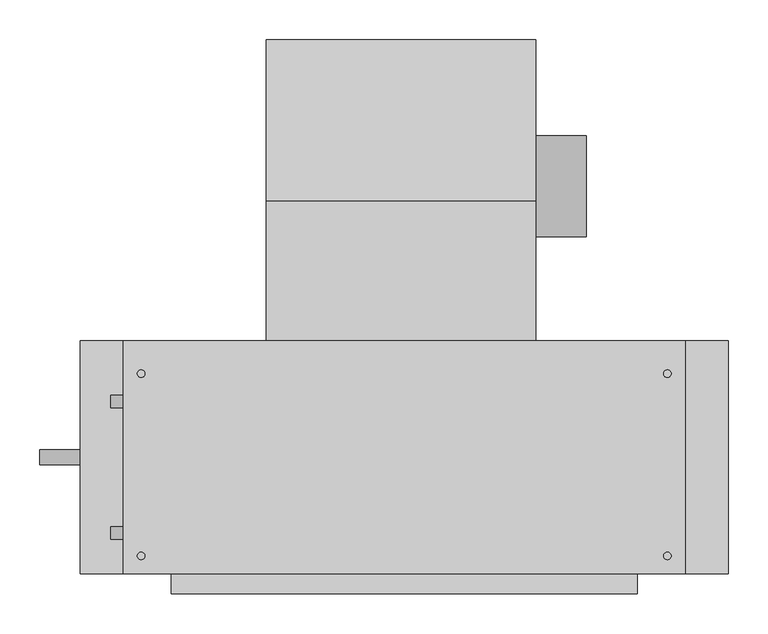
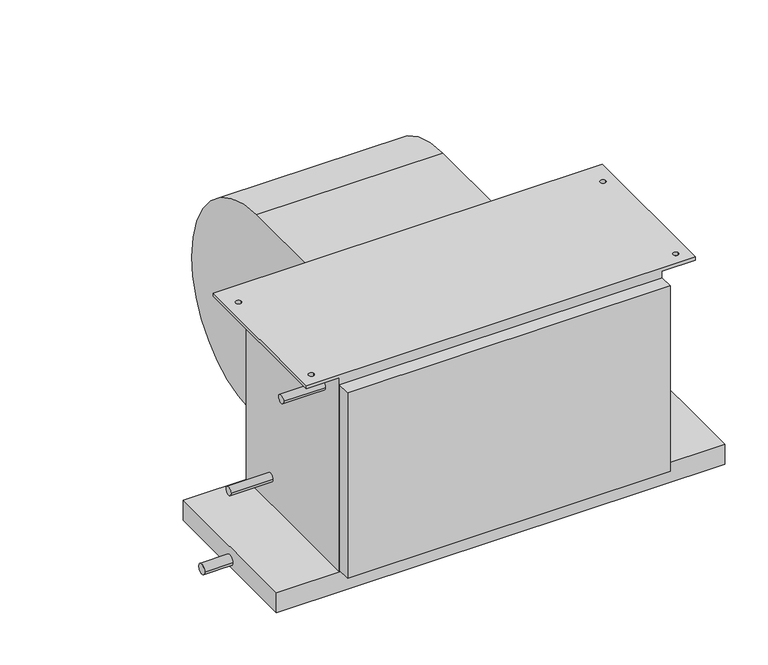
"""IFC4 building model written with IfcOpenShell, lengths in millimetres: proxy geometry, Concealed_High_Capacity_Horizontal_Fan_Coil_Unit_-_42DAA_-_CARRIER_-_2-Pipe_Cool-EHeat_LH_2022 : Size 10 - 277v/60Hz/1Ph - 6 Row 7.0kW."""

from ifc_helpers import new_model, si_unit, point, frame, frame_2d, origin, place, context, project, spatial, polyline, circle_curve, trimmed, segment, composite_curve, outline, extrude, source, transform, mapped, element, save
from ifc_brep_helpers import plane_surface, cylinder_surface, revolved_surface, advanced_brep


def mechanical_equipment_5883dd97(model_context):
    return source(origin(), model_context, "Body", "SolidModel", [
        extrude(outline(composite_curve([segment(trimmed(circle_curve(frame_2d((102.0007598, -206.8897468)), 63.5), [point((165.5007598, -206.8897468))], [point((38.5007598, -206.8897468))], False, "CARTESIAN"), True, "CONTINUOUS"), segment(trimmed(circle_curve(frame_2d((102.0007598, -206.8897468)), 63.5), [point((38.5007598, -206.8897468))], [point((165.5007598, -206.8897468))], False, "CARTESIAN"), True, "CONTINUOUS")], self_intersect=False)), frame((317.5, 0.0, 0.0), z_axis=(1.0, 0.0, 0.0), x_axis=(0.0, 1.0, 0.0)), (0.0, 0.0, 1.0), 63.5),
        advanced_brep(
        [(-20.574, 285.5155957, -222.029602), (-20.574, 104.6226, -403.64664), (-20.574, -50.9016, -277.10638), (-20.574, -92.075, -277.10638), (-20.574, -92.075, -19.05), (-20.574, 83.0080093, -19.05), (317.5, 285.5155957, -222.029602), (317.5, 83.0080093, -19.05), (317.5, -92.075, -19.05), (317.5, -92.075, -277.10638), (317.5, -50.9016, -277.10638), (317.5, 104.622599, -403.6457839)],
        [
            (0, 1, circle_curve(frame((-20.574, 104.44226, -222.57258), z_axis=(-1.0, 0.0, 0.0), x_axis=(0.0, -1.0, 0.0)), 181.0741498)),
            (1, 2, circle_curve(frame((-20.574, 104.44226, -245.02364), z_axis=(-1.0, 0.0, 0.0), x_axis=(0.0, -1.0, 0.0)), 158.6222464)),
            (2, 3),
            (3, 4),
            (4, 5),
            (5, 0, circle_curve(frame((-20.574, 81.9912, -222.57258), z_axis=(-1.0, 0.0, 0.0), x_axis=(0.0, -1.0, 0.0)), 203.52512)),
            (6, 7, circle_curve(frame((317.5, 81.9912, -222.57258), z_axis=(1.0, 0.0, 0.0), x_axis=(0.0, -1.0, 0.0)), 203.52512)),
            (7, 8),
            (8, 9),
            (9, 10),
            (10, 11, circle_curve(frame((317.5, 104.44226, -245.02364), z_axis=(1.0, 0.0, 0.0), x_axis=(0.0, -1.0, 0.0)), 158.6222464)),
            (11, 6, circle_curve(frame((317.5, 104.44226, -222.57258), z_axis=(1.0, 0.0, 0.0), x_axis=(0.0, -1.0, 0.0)), 181.0741498)),
            (0, 6),
            (11, 1),
            (10, 2),
            (9, 3),
            (8, 4),
            (7, 5),
        ],
        [
            plane_surface(frame((-20.574, -76.6318898, -222.57258), z_axis=(-1.0, 0.0, 0.0), x_axis=(0.0, 0.0, 1.0))),
            plane_surface(frame((317.5, -76.6318898, -222.57258), z_axis=(1.0, 0.0, 0.0), x_axis=(0.0, 0.0, -1.0))),
            cylinder_surface(frame((317.5, 104.44226, -222.57258), z_axis=(-1.0, 0.0, 0.0), x_axis=(0.0, -1.0, 0.0)), 181.0741498),
            cylinder_surface(frame((317.5, 104.44226, -245.02364), z_axis=(-1.0, 0.0, 0.0), x_axis=(0.0, -1.0, 0.0)), 158.6222464),
            plane_surface(frame((-20.574, -50.9016, -277.10638), z_axis=(0.0, 0.0, -1.0), x_axis=(1.0, 0.0, 0.0))),
            plane_surface(frame((-20.574, -92.075, -277.10638), z_axis=(0.0, -1.0, 0.0), x_axis=(1.0, 0.0, 0.0))),
            plane_surface(frame((-20.574, -92.075, -19.05), z_axis=(0.0, 0.0, 1.0), x_axis=(1.0, 0.0, 0.0))),
            cylinder_surface(frame((317.5, 81.9912, -222.57258), z_axis=(-1.0, 0.0, 0.0), x_axis=(0.0, -1.0, 0.0)), 203.52512),
        ],
        [
            (0, [[1, 2, 3, 4, 5, 6]]),
            (1, [[7, 8, 9, 10, 11, 12]]),
            (2, [[-1, 13, -12, 14]]),
            (3, [[-2, -14, -11, 15]]),
            (4, [[-3, -15, -10, 16]]),
            (5, [[-4, -16, -9, 17]]),
            (6, [[-5, -17, -8, 18]]),
            (7, [[-6, -18, -7, -13]]),
        ],
    ),
        advanced_brep(
        [(504.825, -92.075, -6.35), (504.825, -384.175, -6.35), (444.5, -384.175, -6.35), (444.5, -92.075, -6.35), (477.8375, -133.35, -6.35), (487.3625, -133.35, -6.35), (477.8375, -361.95, -6.35), (487.3625, -361.95, -6.35), (-200.025, -92.075, -6.35), (-139.7, -92.075, -6.35), (-139.7, -384.175, -6.35), (-200.025, -384.175, -6.35), (-182.5625, -133.35, -6.35), (-173.0375, -133.35, -6.35), (-182.5625, -361.95, -6.35), (-173.0375, -361.95, -6.35), (504.825, -384.175, 0.0), (504.825, -92.075, 0.0), (-200.025, -92.075, 0.0), (-200.025, -384.175, 0.0), (-173.0375, -133.35, 0.0), (-182.5625, -133.35, 0.0), (-173.0375, -361.95, 0.0), (-182.5625, -361.95, 0.0), (487.3625, -133.35, 0.0), (477.8375, -133.35, 0.0), (487.3625, -361.95, 0.0), (477.8375, -361.95, 0.0), (444.5, -92.075, -377.825), (-139.7, -92.075, -377.825), (-139.7, -384.175, -377.825), (444.5, -384.175, -377.825)],
        [
            (0, 1),
            (1, 2),
            (2, 3),
            (3, 0),
            (4, 5, circle_curve(frame((482.6, -133.35, -6.35), z_axis=(0.0, 0.0, 1.0), x_axis=(1.0, 0.0, 0.0)), 4.7625)),
            (5, 4, circle_curve(frame((482.6, -133.35, -6.35), z_axis=(0.0, 0.0, 1.0), x_axis=(1.0, 0.0, 0.0)), 4.7625)),
            (6, 7, circle_curve(frame((482.6, -361.95, -6.35), z_axis=(0.0, 0.0, 1.0), x_axis=(1.0, 0.0, 0.0)), 4.7625)),
            (7, 6, circle_curve(frame((482.6, -361.95, -6.35), z_axis=(0.0, 0.0, 1.0), x_axis=(1.0, 0.0, 0.0)), 4.7625)),
            (8, 9),
            (9, 10),
            (10, 11),
            (11, 8),
            (12, 13, circle_curve(frame((-177.8, -133.35, -6.35), z_axis=(0.0, 0.0, 1.0), x_axis=(1.0, 0.0, 0.0)), 4.7625)),
            (13, 12, circle_curve(frame((-177.8, -133.35, -6.35), z_axis=(0.0, 0.0, 1.0), x_axis=(1.0, 0.0, 0.0)), 4.7625)),
            (14, 15, circle_curve(frame((-177.8, -361.95, -6.35), z_axis=(0.0, 0.0, 1.0), x_axis=(1.0, 0.0, 0.0)), 4.7625)),
            (15, 14, circle_curve(frame((-177.8, -361.95, -6.35), z_axis=(0.0, 0.0, 1.0), x_axis=(1.0, 0.0, 0.0)), 4.7625)),
            (16, 17),
            (17, 18),
            (18, 19),
            (19, 16),
            (20, 21, circle_curve(frame((-177.8, -133.35, 0.0), z_axis=(0.0, 0.0, -1.0), x_axis=(1.0, 0.0, 0.0)), 4.7625)),
            (21, 20, circle_curve(frame((-177.8, -133.35, 0.0), z_axis=(0.0, 0.0, -1.0), x_axis=(1.0, 0.0, 0.0)), 4.7625)),
            (22, 23, circle_curve(frame((-177.8, -361.95, 0.0), z_axis=(0.0, 0.0, -1.0), x_axis=(1.0, 0.0, 0.0)), 4.7625)),
            (23, 22, circle_curve(frame((-177.8, -361.95, 0.0), z_axis=(0.0, 0.0, -1.0), x_axis=(1.0, 0.0, 0.0)), 4.7625)),
            (24, 25, circle_curve(frame((482.6, -133.35, 0.0), z_axis=(0.0, 0.0, -1.0), x_axis=(1.0, 0.0, 0.0)), 4.7625)),
            (25, 24, circle_curve(frame((482.6, -133.35, 0.0), z_axis=(0.0, 0.0, -1.0), x_axis=(1.0, 0.0, 0.0)), 4.7625)),
            (26, 27, circle_curve(frame((482.6, -361.95, 0.0), z_axis=(0.0, 0.0, -1.0), x_axis=(1.0, 0.0, 0.0)), 4.7625)),
            (27, 26, circle_curve(frame((482.6, -361.95, 0.0), z_axis=(0.0, 0.0, -1.0), x_axis=(1.0, 0.0, 0.0)), 4.7625)),
            (3, 28),
            (28, 29),
            (29, 9),
            (8, 18),
            (17, 0),
            (1, 16),
            (19, 11),
            (10, 30),
            (30, 31),
            (31, 2),
            (28, 31),
            (30, 29),
            (20, 13),
            (12, 21),
            (22, 15),
            (14, 23),
            (24, 5),
            (4, 25),
            (26, 7),
            (6, 27),
        ],
        [
            plane_surface(frame((444.5, -92.075, -6.35), z_axis=(0.0, 0.0, -1.0), x_axis=(1.0, 0.0, 0.0))),
            plane_surface(frame((444.5, -92.075, 0.0), z_axis=(0.0, 0.0, 1.0), x_axis=(-1.0, 0.0, 0.0))),
            plane_surface(frame((504.825, -92.075, 0.0), z_axis=(0.0, 1.0, 0.0), x_axis=(0.0, 0.0, -1.0))),
            plane_surface(frame((444.5, -384.175, 0.0), z_axis=(0.0, -1.0, 0.0), x_axis=(0.0, 0.0, -1.0))),
            plane_surface(frame((504.825, -384.175, 0.0), z_axis=(1.0, 0.0, 0.0), x_axis=(0.0, 0.0, -1.0))),
            plane_surface(frame((-200.025, -92.075, 0.0), z_axis=(-1.0, 0.0, 0.0), x_axis=(0.0, 0.0, -1.0))),
            plane_surface(frame((-139.7, -92.075, -377.825), z_axis=(0.0, 0.0, -1.0), x_axis=(1.0, 0.0, 0.0))),
            plane_surface(frame((-139.7, -92.075, 0.0), z_axis=(-1.0, 0.0, 0.0), x_axis=(0.0, 0.0, -1.0))),
            plane_surface(frame((444.5, -384.175, 0.0), z_axis=(1.0, 0.0, 0.0), x_axis=(0.0, 0.0, -1.0))),
            revolved_surface(polyline([(-173.03750000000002, -133.35, 0.0), (-173.03750000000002, -133.35, -6.35)]), (-177.8, -133.35, -6.35), (0.0, 0.0, 1.0)),
            revolved_surface(polyline([(-173.03750000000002, -361.95, 0.0), (-173.03750000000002, -361.95, -6.35)]), (-177.8, -361.95, 0.0), (0.0, 0.0, 1.0)),
            revolved_surface(polyline([(487.3625, -133.35, 0.0), (487.3625, -133.35, -6.35)]), (482.6, -133.35, 0.0), (0.0, 0.0, 1.0)),
            revolved_surface(polyline([(487.3625, -361.95, 0.0), (487.3625, -361.95, -6.35)]), (482.6, -361.95, 0.0), (0.0, 0.0, 1.0)),
        ],
        [
            (0, [[1, 2, 3, 4], [5, 6], [7, 8]]),
            (0, [[9, 10, 11, 12], [13, 14], [15, 16]]),
            (1, [[17, 18, 19, 20], [21, 22], [23, 24], [25, 26], [27, 28]]),
            (2, [[-4, 29, 30, 31, -9, 32, -18, 33]]),
            (3, [[-2, 34, -20, 35, -11, 36, 37, 38]]),
            (4, [[-1, -33, -17, -34]]),
            (5, [[-12, -35, -19, -32]]),
            (6, [[39, -37, 40, -30]]),
            (7, [[-40, -36, -10, -31]]),
            (8, [[-39, -29, -3, -38]]),
            (9, [[41, -13, 42, -21]]),
            (9, [[-41, -22, -42, -14]]),
            (10, [[43, -15, 44, -23]]),
            (10, [[-43, -24, -44, -16]]),
            (11, [[45, -5, 46, -25]]),
            (11, [[-45, -26, -46, -6]]),
            (12, [[47, -7, 48, -27]]),
            (12, [[-47, -28, -48, -8]]),
        ],
    ),
        extrude(outline(composite_curve([segment(trimmed(circle_curve(frame_2d((-238.125, -403.225)), 9.525), [point((-247.65, -403.225))], [point((-228.6, -403.225))], False, "CARTESIAN"), True, "CONTINUOUS"), segment(trimmed(circle_curve(frame_2d((-238.125, -403.225)), 9.525), [point((-228.6, -403.225))], [point((-247.65, -403.225))], False, "CARTESIAN"), True, "CONTINUOUS")], self_intersect=False)), frame((-304.8, 0.0, 0.0), z_axis=(1.0, 0.0, 0.0), x_axis=(0.0, 1.0, 0.0)), (0.0, 0.0, 1.0), 50.8),
        extrude(outline(composite_curve([segment(trimmed(circle_curve(frame_2d((-333.375, -50.8)), 7.9375), [point((-341.3125, -50.8))], [point((-325.4375, -50.8))], False, "CARTESIAN"), True, "CONTINUOUS"), segment(trimmed(circle_curve(frame_2d((-333.375, -50.8)), 7.9375), [point((-325.4375, -50.8))], [point((-341.3125, -50.8))], False, "CARTESIAN"), True, "CONTINUOUS")], self_intersect=False)), frame((-215.9, 0.0, 0.0), z_axis=(1.0, 0.0, 0.0), x_axis=(0.0, 1.0, 0.0)), (0.0, 0.0, 1.0), 76.2),
        extrude(outline(composite_curve([segment(trimmed(circle_curve(frame_2d((-168.275, -327.025)), 7.9375), [point((-176.2125, -327.025))], [point((-160.3375, -327.025))], False, "CARTESIAN"), True, "CONTINUOUS"), segment(trimmed(circle_curve(frame_2d((-168.275, -327.025)), 7.9375), [point((-160.3375, -327.025))], [point((-176.2125, -327.025))], False, "CARTESIAN"), True, "CONTINUOUS")], self_intersect=False)), frame((-215.9, 0.0, 0.0), z_axis=(1.0, 0.0, 0.0), x_axis=(0.0, 1.0, 0.0)), (0.0, 0.0, 1.0), 76.2),
        extrude(outline(polyline([(444.5, -409.575), (-139.7, -409.575), (-139.7, -384.175), (444.5, -384.175), (444.5, -409.575)])), frame((0.0, 0.0, -374.65), z_axis=(0.0, 0.0, 1.0), x_axis=(1.0, 0.0, 0.0)), (0.0, 0.0, 1.0), 355.6),
        extrude(outline(polyline([(558.8, -92.075), (558.8, -384.175), (-254.0, -384.175), (-254.0, -92.075), (558.8, -92.075)])), frame((0.0, 0.0, -415.925), z_axis=(0.0, 0.0, 1.0), x_axis=(1.0, 0.0, 0.0)), (0.0, 0.0, 1.0), 38.1),
    ])


if __name__ == "__main__":
    model = new_model("IFC4")
    model_context = context("Model", 3, world=origin())
    ifc_project = project(units=[si_unit("LENGTHUNIT", "METRE", prefix="MILLI")], contexts=[model_context])
    site = spatial("IfcSite", under=ifc_project)
    building = spatial("IfcBuilding", under=site)
    placement = place(None, origin())
    mechanical_equipment_shape = mechanical_equipment_5883dd97(model_context)
    element("IfcBuildingElementProxy", 1, Name="Concealed_High_Capacity_Horizontal_Fan_Coil_Unit_-_42DAA_-_CARRIER_-_2-Pipe_Cool-EHeat_LH_2022 : Size 10 - 277v/60Hz/1Ph - 6 Row 7.0kW", ObjectType="Concealed_High_Capacity_Horizontal_Fan_Coil_Unit_-_42DAA_-_CARRIER_-_2-Pipe_Cool-EHeat_LH_2022 : Size 10 - 277v/60Hz/1Ph - 6 Row 7.0kW", at=placement, inside=building, context=model_context, shape_type="MappedRepresentation", body=[
        mapped(mechanical_equipment_shape, transform((0.0, 0.0, 0.0), x_axis=(1.0, 0.0, 0.0), y_axis=(0.0, 1.0, 0.0), z_axis=(0.0, 0.0, 1.0))),
    ])
    save(model, "model.ifc")
